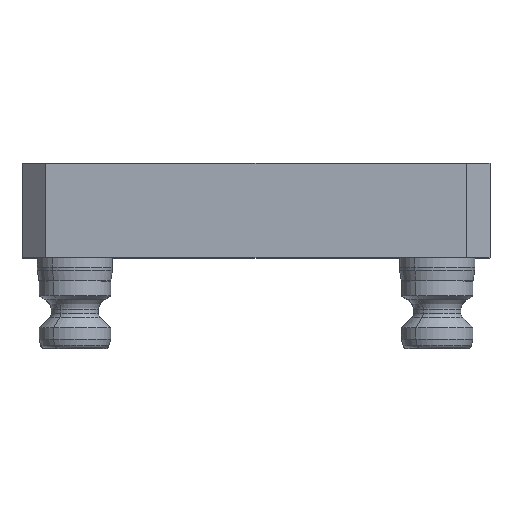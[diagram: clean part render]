
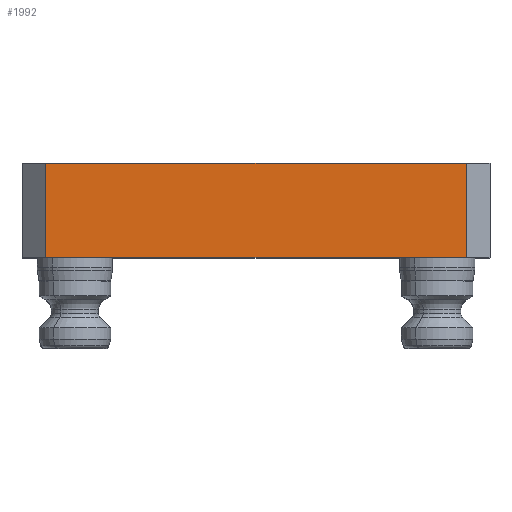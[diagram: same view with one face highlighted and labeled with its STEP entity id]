
A CAD part, top view. The second image highlights one B-rep face of the part: STEP entity #1992.
In plain terms, the highlighted planar face has unit normal (0, 0, 1).
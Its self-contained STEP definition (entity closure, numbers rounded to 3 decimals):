
#131 = VERTEX_POINT ( 'NONE', #5084 ) ;
#625 = FACE_OUTER_BOUND ( 'NONE', #2132, .T. ) ;
#669 = CARTESIAN_POINT ( 'NONE',  ( -62., 0., 62. ) ) ;
#815 = EDGE_CURVE ( 'NONE', #6770, #131, #1378, .T. ) ;
#837 = LINE ( 'NONE', #7632, #5777 ) ;
#878 = DIRECTION ( 'NONE',  ( 0., 0., -1. ) ) ;
#1080 = ORIENTED_EDGE ( 'NONE', *, *, #1216, .T. ) ;
#1216 = EDGE_CURVE ( 'NONE', #131, #2559, #5383, .T. ) ;
#1220 = CARTESIAN_POINT ( 'NONE',  ( -55.65, 25., 62. ) ) ;
#1378 = LINE ( 'NONE', #669, #4543 ) ;
#1634 = CARTESIAN_POINT ( 'NONE',  ( -55.65, 25., 62. ) ) ;
#1905 = DIRECTION ( 'NONE',  ( 0., 1., 0. ) ) ;
#1992 = ADVANCED_FACE ( 'NONE', ( #625 ), #4904, .F. ) ;
#1995 = AXIS2_PLACEMENT_3D ( 'NONE', #3548, #878, #5608 ) ;
#2006 = EDGE_CURVE ( 'NONE', #3614, #2559, #837, .T. ) ;
#2132 = EDGE_LOOP ( 'NONE', ( #2696, #7424, #5080, #1080 ) ) ;
#2190 = LINE ( 'NONE', #1634, #5807 ) ;
#2559 = VERTEX_POINT ( 'NONE', #8412 ) ;
#2696 = ORIENTED_EDGE ( 'NONE', *, *, #2006, .F. ) ;
#3279 = CARTESIAN_POINT ( 'NONE',  ( 55.65, 25., 62. ) ) ;
#3548 = CARTESIAN_POINT ( 'NONE',  ( -62., 25., 62. ) ) ;
#3614 = VERTEX_POINT ( 'NONE', #1220 ) ;
#4543 = VECTOR ( 'NONE', #8166, 1000. ) ;
#4904 = PLANE ( 'NONE',  #1995 ) ;
#5080 = ORIENTED_EDGE ( 'NONE', *, *, #815, .T. ) ;
#5084 = CARTESIAN_POINT ( 'NONE',  ( 55.65, 0., 62. ) ) ;
#5383 = LINE ( 'NONE', #3279, #7945 ) ;
#5608 = DIRECTION ( 'NONE',  ( -1., 0., 0. ) ) ;
#5777 = VECTOR ( 'NONE', #7557, 1000. ) ;
#5807 = VECTOR ( 'NONE', #6390, 1000. ) ;
#6390 = DIRECTION ( 'NONE',  ( 0., -1., 0. ) ) ;
#6770 = VERTEX_POINT ( 'NONE', #8416 ) ;
#7125 = EDGE_CURVE ( 'NONE', #3614, #6770, #2190, .T. ) ;
#7424 = ORIENTED_EDGE ( 'NONE', *, *, #7125, .T. ) ;
#7557 = DIRECTION ( 'NONE',  ( 1., 0., 0. ) ) ;
#7632 = CARTESIAN_POINT ( 'NONE',  ( -62., 25., 62. ) ) ;
#7945 = VECTOR ( 'NONE', #1905, 1000. ) ;
#8166 = DIRECTION ( 'NONE',  ( 1., 0., 0. ) ) ;
#8412 = CARTESIAN_POINT ( 'NONE',  ( 55.65, 25., 62. ) ) ;
#8416 = CARTESIAN_POINT ( 'NONE',  ( -55.65, 0., 62. ) ) ;
